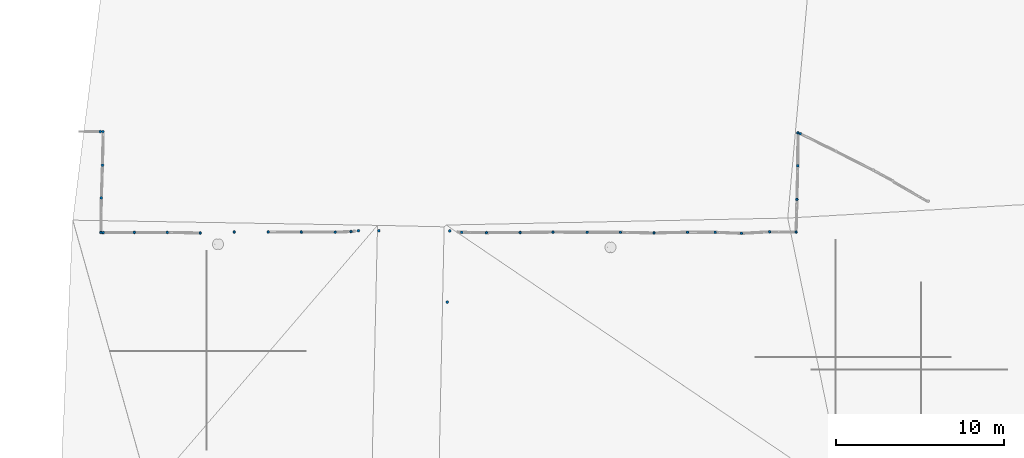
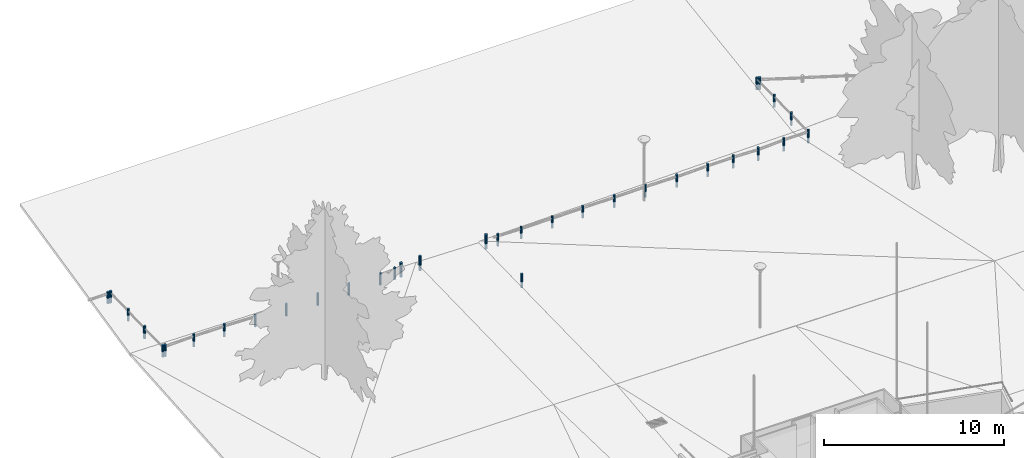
# One storey, part 2 of 133: 34 columns.
"""IFC2X3 building model written with IfcOpenShell, lengths in centimetres."""

import ifcopenshell
import ifcopenshell.guid

model = None  # the IFC model being written
_history = None  # IfcOwnerHistory: only IFC2X3 demands one
_inside = {}  # id of a spatial element -> (the spatial element, [elements in it])
_under = {}  # id of a project, library or spatial element -> (it, [spatial elements below it])
_declared = {}  # id of a project -> (the project, [libraries it declares])
_typed = {}  # id of a type object -> (the type object, [elements of that type])
_made_of = {}  # id of a material, layer set ... -> (it, [elements and type objects made of it])


def new_model(schema):
    """Start an empty IFC model of exactly this schema.

    Asked for "IFC4X3", IfcOpenShell would pick the latest addendum, in which some entities
    have other attributes; the version numbers below select the first issue.
    IFC2X3 requires an IfcOwnerHistory on every rooted entity: one is made here for all.
    """
    global model, _history
    if schema == "IFC4X3":
        model = ifcopenshell.file(schema_version=(4, 3, 0, 0))
    else:
        model = ifcopenshell.file(schema=schema)
    _inside.clear()
    _under.clear()
    _declared.clear()
    _typed.clear()
    _made_of.clear()
    _history = None
    if model.schema == "IFC2X3":
        org = make("IfcOrganization", Name="unknown")
        user = make(
            "IfcPersonAndOrganization",
            ThePerson=make("IfcPerson", FamilyName="unknown"),
            TheOrganization=org,
        )
        app = make(
            "IfcApplication",
            ApplicationDeveloper=org,
            Version="unknown",
            ApplicationFullName="unknown",
            ApplicationIdentifier="unknown",
        )
        _history = make(
            "IfcOwnerHistory",
            OwningUser=user,
            OwningApplication=app,
            ChangeAction="ADDED",
            CreationDate=0,
        )
    return model


def make(cls, **values):
    """One entity of the class cls with the attributes given. An attribute that is None is left unset."""
    return model.create_entity(
        cls, **{name: value for name, value in values.items() if value is not None}
    )


def entity(cls, *values):
    """Any entity or typed value of the class cls, its attributes in the order of the schema. None: left unset."""
    e = model.create_entity(cls)
    for i, value in enumerate(values):
        if value is not None:
            e[i] = value
    return e


def rooted(cls, **values):
    """An entity with a GlobalId (a new one), such as an element, a storey or a relation."""
    return make(cls, GlobalId=ifcopenshell.guid.new(), OwnerHistory=_history, **values)


def si_unit(unit_type, name, prefix=None):
    """IfcSIUnit, for example si_unit("LENGTHUNIT", "METRE", prefix="MILLI")."""
    return make("IfcSIUnit", UnitType=unit_type, Prefix=prefix, Name=name)


def converted_unit(unit_type, name, factor, base, dimensions=None, offset=None):
    """IfcConversionBasedUnit, such as the inch: factor (a typed value) times the base unit."""
    return make(
        "IfcConversionBasedUnit"
        if offset is None
        else "IfcConversionBasedUnitWithOffset",
        ConversionOffset=offset,
        Dimensions=None
        if dimensions is None
        else entity("IfcDimensionalExponents", *dimensions),
        UnitType=unit_type,
        Name=name,
        ConversionFactor=make(
            "IfcMeasureWithUnit", ValueComponent=factor, UnitComponent=base
        ),
    )


def assignment(units):
    """IfcUnitAssignment: the units of a project."""
    return None if units is None else make("IfcUnitAssignment", Units=units)


def point(xyz):
    """IfcCartesianPoint."""
    return None if xyz is None else make("IfcCartesianPoint", Coordinates=xyz)


def direction(xyz):
    """IfcDirection."""
    return None if xyz is None else make("IfcDirection", DirectionRatios=xyz)


def frame(location, z_axis=None, x_axis=None):
    """IfcAxis2Placement3D, a coordinate frame: its origin and axes. An axis left out is left unset."""
    return make(
        "IfcAxis2Placement3D",
        Location=point(location),
        Axis=direction(z_axis),
        RefDirection=direction(x_axis),
    )


def frame_2d(location, x_axis=None):
    """IfcAxis2Placement2D, a coordinate frame in the plane: its origin and x axis."""
    return make(
        "IfcAxis2Placement2D", Location=point(location), RefDirection=direction(x_axis)
    )


def origin():
    """The frame at (0, 0, 0) with its axes left unset."""
    return frame((0.0, 0.0, 0.0))


def origin_with_axes():
    """The frame at (0, 0, 0) with the z axis (0, 0, 1) and the x axis (1, 0, 0) written out."""
    return frame((0.0, 0.0, 0.0), z_axis=(0.0, 0.0, 1.0), x_axis=(1.0, 0.0, 0.0))


def origin_2d_with_axis():
    """The frame at (0, 0) in the plane with the x axis (1, 0) written out."""
    return frame_2d((0.0, 0.0), x_axis=(1.0, 0.0))


def place(relative_to, where):
    """IfcLocalPlacement: puts the frame where relative to a parent placement (None: the world)."""
    return make(
        "IfcLocalPlacement", PlacementRelTo=relative_to, RelativePlacement=where
    )


def context(
    kind, dimensions, precision=None, world=None, true_north=None, identifier=None
):
    """IfcGeometricRepresentationContext, for example the 3D "Model" context."""
    return make(
        "IfcGeometricRepresentationContext",
        ContextIdentifier=identifier,
        ContextType=kind,
        CoordinateSpaceDimension=dimensions,
        Precision=precision,
        WorldCoordinateSystem=world,
        TrueNorth=true_north,
    )


def subcontext(parent, identifier, kind, view, scale=None):
    """IfcGeometricRepresentationSubContext, for example "Body" below "Model"."""
    return make(
        "IfcGeometricRepresentationSubContext",
        ContextIdentifier=identifier,
        ContextType=kind,
        ParentContext=parent,
        TargetScale=scale,
        TargetView=view,
    )


def project(units=None, contexts=None):
    """IfcProject with its units and contexts."""
    return rooted(
        "IfcProject",
        Name="project",
        RepresentationContexts=contexts,
        UnitsInContext=assignment(units),
    )


def spatial(cls, under=None, at=None, **own):
    """A site, building, storey or space (cls), placed at a placement, below another one or the project."""
    s = rooted(cls, ObjectPlacement=at, **own)
    if under is not None:
        _under.setdefault(under.id(), (under, []))[1].append(s)
    return s


def profile(cls, at=None, kind="AREA", **sizes):
    """A parametric profile (cls). Its sizes go by their IFC names, for example OverallWidth=200.0."""
    return make(cls, ProfileType=kind, Position=at, **sizes)


def circle(**sizes):
    """IfcCircleProfileDef."""
    return profile("IfcCircleProfileDef", **sizes)


def extrude(swept, where, along, depth):
    """IfcExtrudedAreaSolid: the profile swept, set in the frame where, extruded along a direction by depth."""
    return make(
        "IfcExtrudedAreaSolid",
        SweptArea=swept,
        Position=where,
        ExtrudedDirection=direction(along),
        Depth=depth,
    )


def shape(context_of_items, identifier, shape_type, items):
    """IfcShapeRepresentation: the items that make up one representation, for example the "Body"."""
    return make(
        "IfcShapeRepresentation",
        ContextOfItems=context_of_items,
        RepresentationIdentifier=identifier,
        RepresentationType=shape_type,
        Items=items,
    )


def source(mapping_origin, context_of_items, identifier, shape_type, items):
    """IfcRepresentationMap: a shape defined once, which mapped items show again and again."""
    return make(
        "IfcRepresentationMap",
        MappingOrigin=mapping_origin,
        MappedRepresentation=shape(context_of_items, identifier, shape_type, items),
    )


def transform(
    local_origin,
    x_axis=None,
    y_axis=None,
    z_axis=None,
    scale=None,
    scale2=None,
    scale3=None,
    uniform=True,
):
    """IfcCartesianTransformationOperator3D, or its non-uniform kind. x_axis, y_axis, z_axis: its Axis1, 2, 3."""
    if uniform:
        return make(
            "IfcCartesianTransformationOperator3D",
            Axis1=direction(x_axis),
            Axis2=direction(y_axis),
            LocalOrigin=point(local_origin),
            Scale=scale,
            Axis3=direction(z_axis),
        )
    return make(
        "IfcCartesianTransformationOperator3DnonUniform",
        Axis1=direction(x_axis),
        Axis2=direction(y_axis),
        LocalOrigin=point(local_origin),
        Scale=scale,
        Axis3=direction(z_axis),
        Scale2=scale2,
        Scale3=scale3,
    )


def mapped(mapping_source, mapping_target):
    """IfcMappedItem: shows the shape of a source again, moved by a transform."""
    return make(
        "IfcMappedItem", MappingSource=mapping_source, MappingTarget=mapping_target
    )


def material(Name=None, Category=None):
    """IfcMaterial."""
    return make("IfcMaterial", Name=Name, Category=Category)


def made_of(thing, what):
    """Note that an element or type object is made of a material, layer set ...; save() writes the relation."""
    if what is not None:
        _made_of.setdefault(what.id(), (what, []))[1].append(thing)
    return thing


def type_object(cls, material=None, **own):
    """A type object (cls), such as IfcWallType, which elements share."""
    return made_of(rooted(cls, **own), material)


def element(
    cls,
    number,
    at=None,
    inside=None,
    cuts=None,
    type_object=None,
    material=None,
    context=None,
    identifier="Body",
    shape_type=None,
    held_by="IfcProductDefinitionShape",
    body=None,
    shapes=None,
    **own,
):
    """One element of the class cls, such as IfcWall. Its Tag is "e" and its number.

    at: its placement. inside: the storey or other place that contains it. cuts: it is an
    opening in that element (IfcRelVoidsElement). A single representation is given by context,
    identifier, shape_type and body (its items); several are given by shapes. held_by: the class
    of the entity that holds the representations. save() writes the other relations.
    """
    e = rooted(cls, Tag="e%d" % number, ObjectPlacement=at, **own)
    if body is not None:
        shapes = [shape(context, identifier, shape_type, body)]
    if shapes is not None:
        e.Representation = make(held_by, Representations=shapes)
    if inside is not None:
        _inside.setdefault(inside.id(), (inside, []))[1].append(e)
    if cuts is not None:
        rooted(
            "IfcRelVoidsElement", RelatingBuildingElement=cuts, RelatedOpeningElement=e
        )
    if type_object is not None:
        _typed.setdefault(type_object.id(), (type_object, []))[1].append(e)
    return made_of(e, material)


def aggregate(whole, parts):
    """IfcRelAggregates: a whole, such as a stair, and the parts it consists of."""
    return rooted("IfcRelAggregates", RelatingObject=whole, RelatedObjects=parts)


def save(model, path):
    """Write the relations noted so far, then the file.

    IfcRelAggregates (storeys below a building ...), IfcRelContainedInSpatialStructure (elements
    in a storey), IfcRelDefinesByType, IfcRelAssociatesMaterial and IfcRelDeclares: one each for
    every whole, place, type object, material and project.
    """
    for whole, parts in _under.values():
        aggregate(whole, parts)
    for where, things in _inside.values():
        rooted(
            "IfcRelContainedInSpatialStructure",
            RelatedElements=things,
            RelatingStructure=where,
        )
    for kind, things in _typed.values():
        rooted("IfcRelDefinesByType", RelatedObjects=things, RelatingType=kind)
    for what, things in _made_of.values():
        rooted("IfcRelAssociatesMaterial", RelatedObjects=things, RelatingMaterial=what)
    for by, libraries in _declared.values():
        rooted("IfcRelDeclares", RelatingContext=by, RelatedDefinitions=libraries)
    model.write(path)


model = new_model("IFC2X3")

# Units and contexts
model_context = context("Model", 3, precision=0.0001, world=origin(), true_north=direction((0.225632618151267, 0.974212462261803, 0.0)))
body_context = subcontext(model_context, "Body", "Model", "MODEL_VIEW")
ifc_project = project(units=[si_unit("LENGTHUNIT", "METRE", prefix="CENTI"), si_unit("AREAUNIT", "SQUARE_METRE", prefix="CENTI"), si_unit("VOLUMEUNIT", "CUBIC_METRE", prefix="CENTI"), converted_unit("PLANEANGLEUNIT", "DEGREE", entity("IfcRatioMeasure", 0.0174532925), si_unit("PLANEANGLEUNIT", "RADIAN"), dimensions=[0, 0, 0, 0, 0, 0, 0])], contexts=[model_context])

# Site, building, storey
site_placement = place(None, origin_with_axes())
site = spatial("IfcSite", under=ifc_project, at=site_placement, Name="Default Site", CompositionType="ELEMENT")
building_placement = place(site_placement, origin_with_axes())
building = spatial("IfcBuilding", under=site, at=building_placement, Name="Default Building", CompositionType="ELEMENT")
storey_placement = place(building_placement, frame((0.0, 0.0, -291.400371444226), z_axis=(0.0, 0.0, 1.0), x_axis=(1.0, 0.0, 0.0)))
storey = spatial("IfcBuildingStorey", under=building, at=storey_placement, Name="Rez-de-Jardin", CompositionType="ELEMENT", Elevation=-291.400371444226)

# Columns
ifc_material = material(Name="Chêne rouvre 02")
column_type_1 = type_object("IfcColumnType", Name="Ø160", PredefinedType="USERDEFINED", material=ifc_material)
shared_shape_1 = source(origin_with_axes(), body_context, "Body", "SweptSolid", [
    extrude(circle(Radius=8.0, at=origin_2d_with_axis()), origin_with_axes(), (0.0, 0.0, 1.0), 100.0),
])
column_1_placement = place(storey_placement, frame((68.4592944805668, 2906.38540176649, 60.0), z_axis=(0.0, 0.0, 1.0), x_axis=(1.0, 0.0, 0.0)))
element("IfcColumn", 1, at=column_1_placement, inside=storey, type_object=column_type_1, material=ifc_material, Name="Poteau 1702909", ObjectType="column", context=body_context, shape_type="MappedRepresentation", body=[
    mapped(shared_shape_1, transform((0.0, 0.0, 4.44089209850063e-14), x_axis=(1.0, 0.0, 0.0), y_axis=(0.0, 1.0, 0.0), z_axis=(0.0, 0.0, 1.0), scale=1.0, scale2=1.0, scale3=0.924003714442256, uniform=False)),
])
column_2_placement = place(storey_placement, frame((-1992.58089242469, 3526.43663776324, 59.9999999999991), z_axis=(0.0, 0.0, 1.0), x_axis=(1.0, 0.0, 0.0)))
element("IfcColumn", 2, at=column_2_placement, inside=storey, type_object=column_type_1, material=ifc_material, Name="Poteau 1703097", ObjectType="column", context=body_context, shape_type="MappedRepresentation", body=[
    mapped(shared_shape_1, transform((0.0, 0.0, 0.0), x_axis=(1.0, 0.0, 0.0), y_axis=(0.0, 1.0, 0.0), z_axis=(0.0, 0.0, 1.0), scale=1.0, scale2=1.0, scale3=0.844003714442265, uniform=False)),
])
column_3_placement = place(storey_placement, frame((-1982.53367303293, 3921.90405631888, 60.0), z_axis=(0.0, 0.0, 1.0), x_axis=(1.0, 0.0, 0.0)))
element("IfcColumn", 3, at=column_3_placement, inside=storey, type_object=column_type_1, material=ifc_material, Name="Poteau 1703135", ObjectType="column", context=body_context, shape_type="MappedRepresentation", body=[
    mapped(shared_shape_1, transform((0.0, 0.0, 4.44089209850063e-14), x_axis=(1.0, 0.0, 0.0), y_axis=(0.0, 1.0, 0.0), z_axis=(0.0, 0.0, 1.0), scale=1.0, scale2=1.0, scale3=0.784003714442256, uniform=False)),
])
column_4_placement = place(storey_placement, frame((-1985.14627975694, 3721.78212761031, 60.0), z_axis=(0.0, 0.0, 1.0), x_axis=(1.0, 0.0, 0.0)))
element("IfcColumn", 4, at=column_4_placement, inside=storey, type_object=column_type_1, material=ifc_material, Name="Poteau 1703102", ObjectType="column", context=body_context, shape_type="MappedRepresentation", body=[
    mapped(shared_shape_1, transform((0.0, 0.0, 4.44089209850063e-14), x_axis=(1.0, 0.0, 0.0), y_axis=(0.0, 1.0, 0.0), z_axis=(0.0, 0.0, 1.0), scale=1.0, scale2=1.0, scale3=0.794003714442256, uniform=False)),
])
column_5_placement = place(storey_placement, frame((-1998.6168610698, 3922.17942003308, 60.0), z_axis=(0.0, 0.0, 1.0), x_axis=(1.0, 0.0, 0.0)))
element("IfcColumn", 5, at=column_5_placement, inside=storey, type_object=column_type_1, material=ifc_material, Name="Poteau 1703132", ObjectType="column", context=body_context, shape_type="MappedRepresentation", body=[
    mapped(shared_shape_1, transform((0.0, 0.0, 4.44089209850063e-14), x_axis=(1.0, 0.0, 0.0), y_axis=(0.0, 1.0, 0.0), z_axis=(0.0, 0.0, 1.0), scale=1.0, scale2=1.0, scale3=0.784003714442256, uniform=False)),
])
column_6_placement = place(storey_placement, frame((2172.64456596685, 3909.36466590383, 60.0), z_axis=(0.0, 0.0, 1.0), x_axis=(1.0, 0.0, 0.0)))
element("IfcColumn", 6, at=column_6_placement, inside=storey, type_object=column_type_1, material=ifc_material, Name="Poteau 69571", ObjectType="column", context=body_context, shape_type="MappedRepresentation", body=[
    mapped(shared_shape_1, transform((-3.5527136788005e-13, 0.0, 4.44089209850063e-14), x_axis=(1.0, 0.0, 0.0), y_axis=(0.0, 1.0, 0.0), z_axis=(0.0, 0.0, 1.0), scale=1.0, scale2=1.0, scale3=0.814003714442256, uniform=False)),
])
column_7_placement = place(storey_placement, frame((83.6345747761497, 3329.89709514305, 60.0), z_axis=(0.0, 0.0, 1.0), x_axis=(1.0, 0.0, 0.0)))
element("IfcColumn", 7, at=column_7_placement, inside=storey, type_object=column_type_1, material=ifc_material, Name="Poteau 69575", ObjectType="column", context=body_context, shape_type="MappedRepresentation", body=[
    mapped(shared_shape_1, transform((0.0, 0.0, 4.44089209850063e-14), x_axis=(1.0, 0.0, 0.0), y_axis=(0.0, 1.0, 0.0), z_axis=(0.0, 0.0, 1.0), scale=1.0, scale2=1.0, scale3=0.994003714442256, uniform=False)),
])
column_8_placement = place(storey_placement, frame((-460.324873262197, 3331.51757647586, 60.0), z_axis=(0.0, 0.0, 1.0), x_axis=(1.0, 0.0, 0.0)))
element("IfcColumn", 8, at=column_8_placement, inside=storey, type_object=column_type_1, material=ifc_material, Name="Poteau 69585", ObjectType="column", context=body_context, shape_type="MappedRepresentation", body=[
    mapped(shared_shape_1, transform((0.0, 0.0, 4.44089209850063e-14), x_axis=(1.0, 0.0, 0.0), y_axis=(0.0, 1.0, 0.0), z_axis=(0.0, 0.0, 1.0), scale=1.0, scale2=1.0, scale3=0.964003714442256, uniform=False)),
])
column_9_placement = place(storey_placement, frame((-338.420661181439, 3331.3179486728, 60.0), z_axis=(0.0, 0.0, 1.0), x_axis=(1.0, 0.0, 0.0)))
element("IfcColumn", 9, at=column_9_placement, inside=storey, type_object=column_type_1, material=ifc_material, Name="Poteau 69586", ObjectType="column", context=body_context, shape_type="MappedRepresentation", body=[
    mapped(shared_shape_1, transform((0.0, 0.0, 4.44089209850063e-14), x_axis=(1.0, 0.0, 0.0), y_axis=(0.0, 1.0, 0.0), z_axis=(0.0, 0.0, 1.0), scale=1.0, scale2=1.0, scale3=0.984003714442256, uniform=False)),
])
column_type_2 = type_object("IfcColumnType", Name="Ø140", PredefinedType="USERDEFINED", material=ifc_material)
shared_shape_2 = source(origin_with_axes(), body_context, "Body", "SweptSolid", [
    extrude(circle(Radius=7.0, at=origin_2d_with_axis()), origin_with_axes(), (0.0, 0.0, 1.0), 100.0),
])
column_10_placement = place(storey_placement, frame((698.687422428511, 3322.97093974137, 60.0), z_axis=(0.0, 0.0, 1.0), x_axis=(1.0, 0.0, 0.0)))
element("IfcColumn", 10, at=column_10_placement, inside=storey, type_object=column_type_2, material=ifc_material, Name="Poteau 69572", ObjectType="column", context=body_context, shape_type="MappedRepresentation", body=[
    mapped(shared_shape_2, transform((0.0, 0.0, 4.44089209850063e-14), x_axis=(1.0, 0.0, 0.0), y_axis=(0.0, 1.0, 0.0), z_axis=(0.0, 0.0, 1.0), scale=1.0, scale2=1.0, scale3=0.814003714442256, uniform=False)),
])
column_11_placement = place(storey_placement, frame((2146.94319733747, 3323.51755142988, 60.0), z_axis=(0.0, 0.0, 1.0), x_axis=(1.0, 0.0, 0.0)))
element("IfcColumn", 11, at=column_11_placement, inside=storey, type_object=column_type_2, material=ifc_material, Name="Poteau 69573", ObjectType="column", context=body_context, shape_type="MappedRepresentation", body=[
    mapped(shared_shape_2, transform((0.0, 0.0, 4.44089209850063e-14), x_axis=(1.0, 0.0, 0.0), y_axis=(0.0, 1.0, 0.0), z_axis=(0.0, 0.0, 1.0), scale=1.0, scale2=1.0, scale3=0.904003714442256, uniform=False)),
])
for number, where, z_axis, x_axis, name in (
    (12, (1989.14094903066, 3324.68433073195, 60.0), (0.0, 0.0, 1.0), (1.0, 0.0, 0.0), "Poteau 69570"),
    (13, (1821.03540194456, 3316.09286688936, 60.0), (0.0, 0.0, 1.0), (1.0, 0.0, 0.0), "Poteau 69574"),
):
    element("IfcColumn", number, at=place(storey_placement, frame(where, z_axis=z_axis, x_axis=x_axis)), inside=storey, type_object=column_type_2, material=ifc_material, Name=name, ObjectType="column", context=body_context, shape_type="MappedRepresentation", body=[
        mapped(shared_shape_2, transform((0.0, 0.0, 4.44089209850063e-14), x_axis=(1.0, 0.0, 0.0), y_axis=(0.0, 1.0, 0.0), z_axis=(0.0, 0.0, 1.0), scale=1.0, scale2=1.0, scale3=0.884003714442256, uniform=False)),
    ])
for number, where, z_axis, x_axis, name in (
    (14, (-1994.73526529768, 3321.15393130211, 60.0), (0.0, 0.0, 1.0), (1.0, 0.0, 0.0), "Poteau 69577"),
    (15, (-599.357188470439, 3322.87724674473, 60.0), (0.0, 0.0, 1.0), (1.0, 0.0, 0.0), "Poteau 69578"),
    (16, (-1980.42111868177, 3319.76869134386, 60.0), (0.0, 0.0, 1.0), (1.0, 0.0, 0.0), "Poteau 69576"),
):
    element("IfcColumn", number, at=place(storey_placement, frame(where, z_axis=z_axis, x_axis=x_axis)), inside=storey, type_object=column_type_2, material=ifc_material, Name=name, ObjectType="column", context=body_context, shape_type="MappedRepresentation", body=[
        mapped(shared_shape_2, transform((0.0, 0.0, 4.44089209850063e-14), x_axis=(1.0, 0.0, 0.0), y_axis=(0.0, 1.0, 0.0), z_axis=(0.0, 0.0, 1.0), scale=1.0, scale2=1.0, scale3=0.814003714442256, uniform=False)),
    ])
column_12_placement = place(storey_placement, frame((2156.45786570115, 3718.41062417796, 60.0), z_axis=(0.0, 0.0, 1.0), x_axis=(1.0, 0.0, 0.0)))
element("IfcColumn", 17, at=column_12_placement, inside=storey, type_object=column_type_2, material=ifc_material, Name="Poteau 69563", ObjectType="column", context=body_context, shape_type="MappedRepresentation", body=[
    mapped(shared_shape_2, transform((0.0, 0.0, 4.44089209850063e-14), x_axis=(1.0, 0.0, 0.0), y_axis=(0.0, 1.0, 0.0), z_axis=(0.0, 0.0, 1.0), scale=1.0, scale2=1.0, scale3=0.844003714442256, uniform=False)),
])
column_13_placement = place(storey_placement, frame((2151.69748901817, 3518.00760163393, 60.0), z_axis=(0.0, 0.0, 1.0), x_axis=(1.0, 0.0, 0.0)))
element("IfcColumn", 18, at=column_13_placement, inside=storey, type_object=column_type_2, material=ifc_material, Name="Poteau 69564", ObjectType="column", context=body_context, shape_type="MappedRepresentation", body=[
    mapped(shared_shape_2, transform((0.0, 0.0, 4.44089209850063e-14), x_axis=(1.0, 0.0, 0.0), y_axis=(0.0, 1.0, 0.0), z_axis=(0.0, 0.0, 1.0), scale=1.0, scale2=1.0, scale3=0.874003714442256, uniform=False)),
])
column_14_placement = place(storey_placement, frame((2157.86867268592, 3914.16683109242, 60.0), z_axis=(0.0, 0.0, 1.0), x_axis=(1.0, 0.0, 0.0)))
element("IfcColumn", 19, at=column_14_placement, inside=storey, type_object=column_type_2, material=ifc_material, Name="Poteau 69561", ObjectType="column", context=body_context, shape_type="MappedRepresentation", body=[
    mapped(shared_shape_2, transform((0.0, 0.0, 4.44089209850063e-14), x_axis=(1.0, 0.0, 0.0), y_axis=(0.0, 1.0, 0.0), z_axis=(0.0, 0.0, 1.0), scale=1.0, scale2=1.0, scale3=0.814003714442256, uniform=False)),
])
column_15_placement = place(storey_placement, frame((902.237549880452, 3322.27606513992, 60.0), z_axis=(0.0, 0.0, 1.0), x_axis=(1.0, 0.0, 0.0)))
element("IfcColumn", 20, at=column_15_placement, inside=storey, type_object=column_type_2, material=ifc_material, Name="Poteau 69562", ObjectType="column", context=body_context, shape_type="MappedRepresentation", body=[
    mapped(shared_shape_2, transform((0.0, 0.0, 4.44089209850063e-14), x_axis=(1.0, 0.0, 0.0), y_axis=(0.0, 1.0, 0.0), z_axis=(0.0, 0.0, 1.0), scale=1.0, scale2=1.0, scale3=0.834003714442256, uniform=False)),
])
column_16_placement = place(storey_placement, frame((1500.1545936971, 3322.48333620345, 60.0), z_axis=(0.0, 0.0, 1.0), x_axis=(1.0, 0.0, 0.0)))
element("IfcColumn", 21, at=column_16_placement, inside=storey, type_object=column_type_2, material=ifc_material, Name="Poteau 69565", ObjectType="column", context=body_context, shape_type="MappedRepresentation", body=[
    mapped(shared_shape_2, transform((0.0, 0.0, 4.44089209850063e-14), x_axis=(1.0, 0.0, 0.0), y_axis=(0.0, 1.0, 0.0), z_axis=(0.0, 0.0, 1.0), scale=1.0, scale2=1.0, scale3=0.854003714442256, uniform=False)),
])
column_17_placement = place(storey_placement, frame((1100.05422191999, 3321.86077427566, 60.0), z_axis=(0.0, 0.0, 1.0), x_axis=(1.0, 0.0, 0.0)))
element("IfcColumn", 22, at=column_17_placement, inside=storey, type_object=column_type_2, material=ifc_material, Name="Poteau 69568", ObjectType="column", context=body_context, shape_type="MappedRepresentation", body=[
    mapped(shared_shape_2, transform((-1.77635683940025e-13, 0.0, 4.44089209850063e-14), x_axis=(1.0, 0.0, 0.0), y_axis=(0.0, 1.0, 0.0), z_axis=(0.0, 0.0, 1.0), scale=1.0, scale2=1.0, scale3=0.844003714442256, uniform=False)),
])
column_18_placement = place(storey_placement, frame((1664.81330637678, 3322.00798684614, 60.0), z_axis=(0.0, 0.0, 1.0), x_axis=(1.0, 0.0, 0.0)))
element("IfcColumn", 23, at=column_18_placement, inside=storey, type_object=column_type_2, material=ifc_material, Name="Poteau 69569", ObjectType="column", context=body_context, shape_type="MappedRepresentation", body=[
    mapped(shared_shape_2, transform((0.0, 0.0, 4.44089209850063e-14), x_axis=(1.0, 0.0, 0.0), y_axis=(0.0, 1.0, 0.0), z_axis=(0.0, 0.0, 1.0), scale=1.0, scale2=1.0, scale3=0.864003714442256, uniform=False)),
])
column_19_placement = place(storey_placement, frame((302.217864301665, 3319.74315628, 60.0), z_axis=(0.0, 0.0, 1.0), x_axis=(1.0, 0.0, 0.0)))
element("IfcColumn", 24, at=column_19_placement, inside=storey, type_object=column_type_2, material=ifc_material, Name="Poteau 69566", ObjectType="column", context=body_context, shape_type="MappedRepresentation", body=[
    mapped(shared_shape_2, transform((0.0, 0.0, 4.44089209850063e-14), x_axis=(1.0, 0.0, 0.0), y_axis=(0.0, 1.0, 0.0), z_axis=(0.0, 0.0, 1.0), scale=1.0, scale2=1.0, scale3=0.804003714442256, uniform=False)),
])
column_20_placement = place(storey_placement, frame((1300.45357095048, 3318.28902976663, 60.0), z_axis=(0.0, 0.0, 1.0), x_axis=(1.0, 0.0, 0.0)))
element("IfcColumn", 25, at=column_20_placement, inside=storey, type_object=column_type_2, material=ifc_material, Name="Poteau 69567", ObjectType="column", context=body_context, shape_type="MappedRepresentation", body=[
    mapped(shared_shape_2, transform((0.0, 0.0, 4.44089209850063e-14), x_axis=(1.0, 0.0, 0.0), y_axis=(0.0, 1.0, 0.0), z_axis=(0.0, 0.0, 1.0), scale=1.0, scale2=1.0, scale3=0.854003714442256, uniform=False)),
])
column_21_placement = place(storey_placement, frame((-1795.41055274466, 3321.43656516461, 60.0), z_axis=(0.0, 0.0, 1.0), x_axis=(1.0, 0.0, 0.0)))
element("IfcColumn", 26, at=column_21_placement, inside=storey, type_object=column_type_2, material=ifc_material, Name="Poteau 69579", ObjectType="column", context=body_context, shape_type="MappedRepresentation", body=[
    mapped(shared_shape_2, transform((0.0, 0.0, 4.44089209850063e-14), x_axis=(1.0, 0.0, 0.0), y_axis=(0.0, 1.0, 0.0), z_axis=(0.0, 0.0, 1.0), scale=1.0, scale2=1.0, scale3=0.864003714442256, uniform=False)),
])
column_22_placement = place(storey_placement, frame((502.859908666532, 3321.19431339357, 60.0), z_axis=(0.0, 0.0, 1.0), x_axis=(1.0, 0.0, 0.0)))
element("IfcColumn", 27, at=column_22_placement, inside=storey, type_object=column_type_2, material=ifc_material, Name="Poteau 69590", ObjectType="column", context=body_context, shape_type="MappedRepresentation", body=[
    mapped(shared_shape_2, transform((0.0, 0.0, 4.44089209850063e-14), x_axis=(1.0, 0.0, 0.0), y_axis=(0.0, 1.0, 0.0), z_axis=(0.0, 0.0, 1.0), scale=1.0, scale2=1.0, scale3=0.804003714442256, uniform=False)),
])
column_23_placement = place(storey_placement, frame((155.295072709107, 3322.18067254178, 60.0), z_axis=(0.0, 0.0, 1.0), x_axis=(1.0, 0.0, 0.0)))
element("IfcColumn", 28, at=column_23_placement, inside=storey, type_object=column_type_2, material=ifc_material, Name="Poteau 69583", ObjectType="column", context=body_context, shape_type="MappedRepresentation", body=[
    mapped(shared_shape_2, transform((0.0, 0.0, 4.44089209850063e-14), x_axis=(1.0, 0.0, 0.0), y_axis=(0.0, 1.0, 0.0), z_axis=(0.0, 0.0, 1.0), scale=1.0, scale2=1.0, scale3=0.814003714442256, uniform=False)),
])
column_24_placement = place(storey_placement, frame((-1200.08369813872, 3323.71524655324, 60.0), z_axis=(0.0, 0.0, 1.0), x_axis=(1.0, 0.0, 0.0)))
element("IfcColumn", 29, at=column_24_placement, inside=storey, type_object=column_type_2, material=ifc_material, Name="Poteau 69584", ObjectType="column", context=body_context, shape_type="MappedRepresentation", body=[
    mapped(shared_shape_2, transform((0.0, 0.0, 4.44089209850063e-14), x_axis=(1.0, 0.0, 0.0), y_axis=(0.0, 1.0, 0.0), z_axis=(0.0, 0.0, 1.0), scale=1.0, scale2=1.0, scale3=0.824003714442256, uniform=False)),
])
column_25_placement = place(storey_placement, frame((-1402.66023358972, 3318.03940363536, 60.0), z_axis=(0.0, 0.0, 1.0), x_axis=(1.0, 0.0, 0.0)))
element("IfcColumn", 30, at=column_25_placement, inside=storey, type_object=column_type_2, material=ifc_material, Name="Poteau 69580", ObjectType="column", context=body_context, shape_type="MappedRepresentation", body=[
    mapped(shared_shape_2, transform((0.0, 0.0, 4.44089209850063e-14), x_axis=(1.0, 0.0, 0.0), y_axis=(0.0, 1.0, 0.0), z_axis=(0.0, 0.0, 1.0), scale=1.0, scale2=1.0, scale3=0.814003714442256, uniform=False)),
])
for number, where, z_axis, x_axis, name in (
    (31, (-800.583023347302, 3323.31233590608, 60.0), (0.0, 0.0, 1.0), (1.0, 0.0, 0.0), "Poteau 69582"),
    (32, (-998.116868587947, 3324.31135840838, 60.0), (0.0, 0.0, 1.0), (1.0, 0.0, 0.0), "Poteau 69588"),
):
    element("IfcColumn", number, at=place(storey_placement, frame(where, z_axis=z_axis, x_axis=x_axis)), inside=storey, type_object=column_type_2, material=ifc_material, Name=name, ObjectType="column", context=body_context, shape_type="MappedRepresentation", body=[
        mapped(shared_shape_2, transform((0.0, 0.0, 4.44089209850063e-14), x_axis=(1.0, 0.0, 0.0), y_axis=(0.0, 1.0, 0.0), z_axis=(0.0, 0.0, 1.0), scale=1.0, scale2=1.0, scale3=0.834003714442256, uniform=False)),
    ])
column_26_placement = place(storey_placement, frame((-1599.78505870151, 3321.58660664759, 60.0), z_axis=(0.0, 0.0, 1.0), x_axis=(1.0, 0.0, 0.0)))
element("IfcColumn", 33, at=column_26_placement, inside=storey, type_object=column_type_2, material=ifc_material, Name="Poteau 69589", ObjectType="column", context=body_context, shape_type="MappedRepresentation", body=[
    mapped(shared_shape_2, transform((1.77635683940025e-13, 0.0, 4.44089209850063e-14), x_axis=(1.0, 0.0, 0.0), y_axis=(0.0, 1.0, 0.0), z_axis=(0.0, 0.0, 1.0), scale=1.0, scale2=1.0, scale3=0.864003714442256, uniform=False)),
])
column_27_placement = place(storey_placement, frame((-504.720271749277, 3326.36879016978, 60.0), z_axis=(0.0, 0.0, 1.0), x_axis=(1.0, 0.0, 0.0)))
element("IfcColumn", 34, at=column_27_placement, inside=storey, type_object=column_type_2, material=ifc_material, Name="Poteau 69587", ObjectType="column", context=body_context, shape_type="MappedRepresentation", body=[
    mapped(shared_shape_2, transform((0.0, 0.0, 4.44089209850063e-14), x_axis=(1.0, 0.0, 0.0), y_axis=(0.0, 1.0, 0.0), z_axis=(0.0, 0.0, 1.0), scale=1.0, scale2=1.0, scale3=0.814003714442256, uniform=False)),
])

save(model, "model.ifc")
